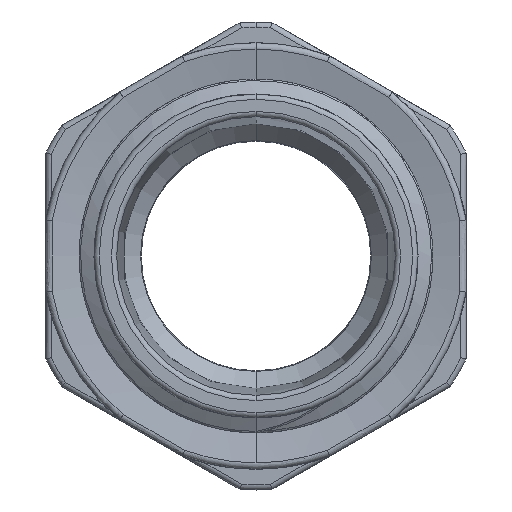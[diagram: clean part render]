
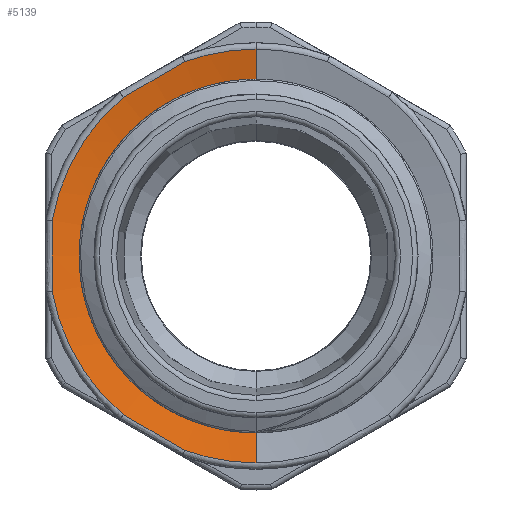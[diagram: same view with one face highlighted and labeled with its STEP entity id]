
A CAD part, front view. The second image highlights one B-rep face of the part: STEP entity #5139.
In plain terms, the highlighted conical face has half-angle 78.311 degrees and reference radius 12.075 mm.
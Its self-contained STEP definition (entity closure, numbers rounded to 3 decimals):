
#491 = AXIS2_PLACEMENT_3D ( 'NONE', #18669, #18771, #9524 ) ;
#621 = CARTESIAN_POINT ( 'NONE',  ( 0., 9.475, 0. ) ) ;
#1502 = FACE_OUTER_BOUND ( 'NONE', #18573, .T. ) ;
#1831 = CARTESIAN_POINT ( 'NONE',  ( 0., 9.4, 12.075 ) ) ;
#2439 = DIRECTION ( 'NONE',  ( 0., -1., 0. ) ) ;
#3106 = DIRECTION ( 'NONE',  ( 0., 0., 1. ) ) ;
#3604 = CARTESIAN_POINT ( 'NONE',  ( -4.028, 9.475, 11. ) ) ;
#3718 = EDGE_CURVE ( 'NONE', #14600, #9885, #19953, .T. ) ;
#3932 = CONICAL_SURFACE ( 'NONE', #4261, 12.075, 1.367 ) ;
#4261 = AXIS2_PLACEMENT_3D ( 'NONE', #18607, #7750, #4832 ) ;
#4371 = ORIENTED_EDGE ( 'NONE', *, *, #9040, .T. ) ;
#4832 = DIRECTION ( 'NONE',  ( 0., 0., -1. ) ) ;
#4942 = CARTESIAN_POINT ( 'NONE',  ( 0., 9.475, -11.714 ) ) ;
#5113 = VERTEX_POINT ( 'NONE', #9355 ) ;
#5139 = ADVANCED_FACE ( 'NONE', ( #1502 ), #3932, .F. ) ;
#5461 = EDGE_CURVE ( 'NONE', #16868, #8258, #16124, .T. ) ;
#5684 = CARTESIAN_POINT ( 'NONE',  ( -5.188, 9.523, -10.329 ) ) ;
#5751 = ORIENTED_EDGE ( 'NONE', *, *, #3718, .F. ) ;
#5986 = CARTESIAN_POINT ( 'NONE',  ( -4.028, 9.475, -11. ) ) ;
#6001 = CARTESIAN_POINT ( 'NONE',  ( 0., 9.475, 0. ) ) ;
#6019 = CARTESIAN_POINT ( 'NONE',  ( -11.539, 9.523, 0.671 ) ) ;
#6298 = CARTESIAN_POINT ( 'NONE',  ( -11.54, 9.475, 2.012 ) ) ;
#6329 = CARTESIAN_POINT ( 'NONE',  ( -5.188, 9.523, 10.329 ) ) ;
#7392 = DIRECTION ( 'NONE',  ( 0., -1., 0. ) ) ;
#7449 = VERTEX_POINT ( 'NONE', #11425 ) ;
#7473 = AXIS2_PLACEMENT_3D ( 'NONE', #6001, #13441, #12138 ) ;
#7517 = CARTESIAN_POINT ( 'NONE',  ( -11.54, 9.475, 2.012 ) ) ;
#7571 = ORIENTED_EDGE ( 'NONE', *, *, #5461, .T. ) ;
#7680 = DIRECTION ( 'NONE',  ( 0., -0.203, -0.979 ) ) ;
#7702 = CARTESIAN_POINT ( 'NONE',  ( -7.513, 9.475, 8.988 ) ) ;
#7750 = DIRECTION ( 'NONE',  ( 0., -1., 0. ) ) ;
#8258 = VERTEX_POINT ( 'NONE', #6298 ) ;
#8394 = EDGE_CURVE ( 'NONE', #15783, #16590, #17399, .T. ) ;
#8584 = DIRECTION ( 'NONE',  ( 0., 0., 1. ) ) ;
#8732 = AXIS2_PLACEMENT_3D ( 'NONE', #621, #2439, #8584 ) ;
#8836 = AXIS2_PLACEMENT_3D ( 'NONE', #15034, #7392, #11714 ) ;
#9040 = EDGE_CURVE ( 'NONE', #14889, #9885, #9900, .T. ) ;
#9355 = CARTESIAN_POINT ( 'NONE',  ( -7.513, 9.475, -8.988 ) ) ;
#9449 = CARTESIAN_POINT ( 'NONE',  ( -7.513, 9.475, -8.988 ) ) ;
#9524 = DIRECTION ( 'NONE',  ( 0., 0., -1. ) ) ;
#9734 = CARTESIAN_POINT ( 'NONE',  ( -6.351, 9.523, 9.657 ) ) ;
#9885 = VERTEX_POINT ( 'NONE', #4942 ) ;
#9900 = CIRCLE ( 'NONE', #16974, 11.714 ) ;
#10001 = CARTESIAN_POINT ( 'NONE',  ( -4.028, 9.475, -11. ) ) ;
#10265 = EDGE_CURVE ( 'NONE', #16590, #16868, #18304, .T. ) ;
#10309 = CARTESIAN_POINT ( 'NONE',  ( -6.351, 9.523, -9.657 ) ) ;
#11112 = CIRCLE ( 'NONE', #491, 9.897 ) ;
#11238 = ORIENTED_EDGE ( 'NONE', *, *, #15822, .T. ) ;
#11425 = CARTESIAN_POINT ( 'NONE',  ( 0., 9.851, 9.897 ) ) ;
#11714 = DIRECTION ( 'NONE',  ( 0., 0., 1. ) ) ;
#11886 = EDGE_CURVE ( 'NONE', #8258, #15760, #19179, .T. ) ;
#12138 = DIRECTION ( 'NONE',  ( 0., 0., 1. ) ) ;
#12161 = CARTESIAN_POINT ( 'NONE',  ( -11.539, 9.523, -0.671 ) ) ;
#13025 = CARTESIAN_POINT ( 'NONE',  ( 0., 9.851, -9.897 ) ) ;
#13441 = DIRECTION ( 'NONE',  ( 0., -1., 0. ) ) ;
#13611 = CARTESIAN_POINT ( 'NONE',  ( 0., 9.4, -12.075 ) ) ;
#13689 = CARTESIAN_POINT ( 'NONE',  ( -4.028, 9.475, 11. ) ) ;
#14226 = ORIENTED_EDGE ( 'NONE', *, *, #18424, .F. ) ;
#14329 = DIRECTION ( 'NONE',  ( 0., -0.203, 0.979 ) ) ;
#14492 = ORIENTED_EDGE ( 'NONE', *, *, #11886, .T. ) ;
#14600 = VERTEX_POINT ( 'NONE', #13025 ) ;
#14889 = VERTEX_POINT ( 'NONE', #5986 ) ;
#14924 = CARTESIAN_POINT ( 'NONE',  ( 0., 9.475, 11.714 ) ) ;
#15034 = CARTESIAN_POINT ( 'NONE',  ( 0., 9.475, 0. ) ) ;
#15760 = VERTEX_POINT ( 'NONE', #16440 ) ;
#15783 = VERTEX_POINT ( 'NONE', #14924 ) ;
#15822 = EDGE_CURVE ( 'NONE', #15760, #5113, #17489, .T. ) ;
#15851 = CARTESIAN_POINT ( 'NONE',  ( -7.513, 9.475, 8.988 ) ) ;
#15910 = VECTOR ( 'NONE', #14329, 1000. ) ;
#16124 = CIRCLE ( 'NONE', #7473, 11.714 ) ;
#16225 = VECTOR ( 'NONE', #7680, 1000. ) ;
#16440 = CARTESIAN_POINT ( 'NONE',  ( -11.54, 9.475, -2.012 ) ) ;
#16590 = VERTEX_POINT ( 'NONE', #13689 ) ;
#16868 = VERTEX_POINT ( 'NONE', #7702 ) ;
#16974 = AXIS2_PLACEMENT_3D ( 'NONE', #19919, #19707, #3106 ) ;
#17337 = B_SPLINE_CURVE_WITH_KNOTS ( 'NONE', 3,
 ( #9449, #10309, #5684, #10001 ),
 .UNSPECIFIED., .F., .F.,
 ( 4, 4 ),
 ( 0., 0.004 ),
 .UNSPECIFIED. ) ;
#17399 = CIRCLE ( 'NONE', #8732, 11.714 ) ;
#17489 = CIRCLE ( 'NONE', #8836, 11.714 ) ;
#17642 = EDGE_CURVE ( 'NONE', #7449, #15783, #18744, .T. ) ;
#17915 = ORIENTED_EDGE ( 'NONE', *, *, #18881, .T. ) ;
#18084 = ORIENTED_EDGE ( 'NONE', *, *, #17642, .T. ) ;
#18304 = B_SPLINE_CURVE_WITH_KNOTS ( 'NONE', 3,
 ( #3604, #6329, #9734, #15851 ),
 .UNSPECIFIED., .F., .F.,
 ( 4, 4 ),
 ( 0., 0.004 ),
 .UNSPECIFIED. ) ;
#18386 = CARTESIAN_POINT ( 'NONE',  ( -11.54, 9.475, -2.012 ) ) ;
#18424 = EDGE_CURVE ( 'NONE', #7449, #14600, #11112, .T. ) ;
#18573 = EDGE_LOOP ( 'NONE', ( #14226, #18084, #19333, #19076, #7571, #14492, #11238, #17915, #4371, #5751 ) ) ;
#18607 = CARTESIAN_POINT ( 'NONE',  ( 0., 9.4, 0. ) ) ;
#18669 = CARTESIAN_POINT ( 'NONE',  ( 0., 9.851, 0. ) ) ;
#18744 = LINE ( 'NONE', #1831, #15910 ) ;
#18771 = DIRECTION ( 'NONE',  ( 0., -1., 0. ) ) ;
#18881 = EDGE_CURVE ( 'NONE', #5113, #14889, #17337, .T. ) ;
#19076 = ORIENTED_EDGE ( 'NONE', *, *, #10265, .T. ) ;
#19179 = B_SPLINE_CURVE_WITH_KNOTS ( 'NONE', 3,
 ( #7517, #6019, #12161, #18386 ),
 .UNSPECIFIED., .F., .F.,
 ( 4, 4 ),
 ( 0., 0.004 ),
 .UNSPECIFIED. ) ;
#19333 = ORIENTED_EDGE ( 'NONE', *, *, #8394, .T. ) ;
#19707 = DIRECTION ( 'NONE',  ( 0., -1., 0. ) ) ;
#19919 = CARTESIAN_POINT ( 'NONE',  ( 0., 9.475, 0. ) ) ;
#19953 = LINE ( 'NONE', #13611, #16225 ) ;
